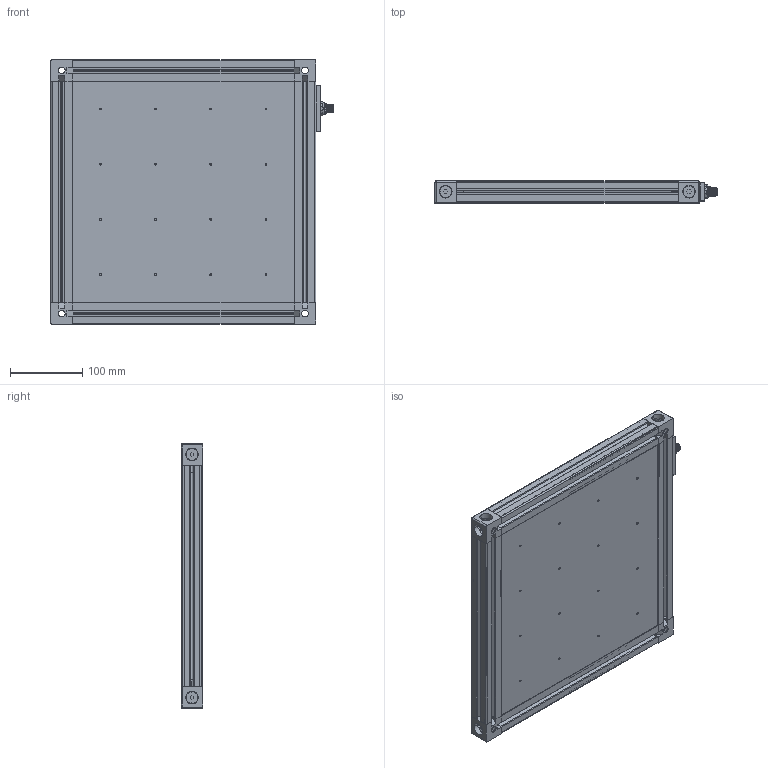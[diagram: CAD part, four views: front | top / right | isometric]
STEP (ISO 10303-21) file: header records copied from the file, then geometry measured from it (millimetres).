
FILE_DESCRIPTION (( 'STEP AP214' ), '1' );
FILE_NAME ('SOBL_300X300.STEP', '2021-02-01T20:40:38', ( '' ), ( '' ), 'SwSTEP 2.0', 'SolidWorks 2021', '' );
FILE_SCHEMA (( 'AUTOMOTIVE_DESIGN' ));
Length unit declared in the file: millimetre
Products named in the file (13): Input Mounting Plate_STANDARD; BAR-30_306; SOBL_300X300; Input Assembly; SOBL-BC_300 x 300; Screws_FB08.0-015; 150mm LED Board; Screws -- short_FB08.0-015; M12 Nut; Screw holder; M12_Male; SOBL-BP-(50-600)_306 x 306; Corner Cube-30
Assembly tree (28 placements, depth 3):
  SOBL_300X300
    Corner Cube-30  x4
    BAR-30_306  x4
    Screws_FB08.0-015  x8
    SOBL-BC_300 x 300
    Input Assembly
      M12_Male
      Input Mounting Plate_STANDARD
      Screws -- short_FB08.0-015  x2
      Screw holder  x2
      M12 Nut
    SOBL-BP-(50-600)_306 x 306
    150mm LED Board  x2
Bounding box: 389.73 x 30 x 366 mm (x, y, z)
Volume: 1186226 mm3; surface area: 967970.1 mm2
Topology: 27 solids, 28 shells, 2790 faces, 7136 edges, 4708 vertices
Faces by surface type: plane 2076, cylinder 528, cone 84, bspline 70, sphere 28, torus 4
Entity records: 71964 total; most frequent: CARTESIAN_POINT 28333, ORIENTED_EDGE 7008, DIRECTION 6400, EDGE_CURVE 3504, VECTOR 2650, LINE 2650, VERTEX_POINT 2320, AXIS2_PLACEMENT_3D 1875
